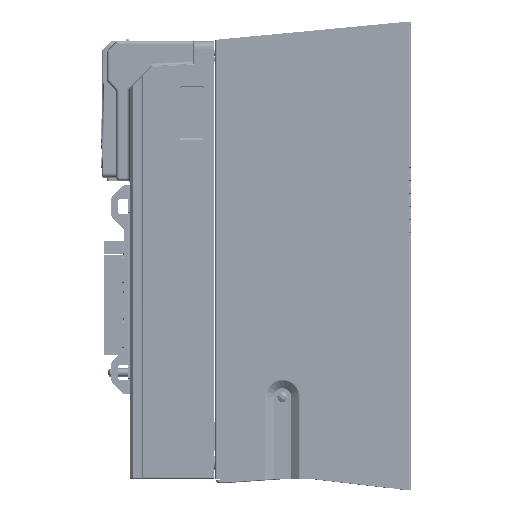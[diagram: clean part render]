
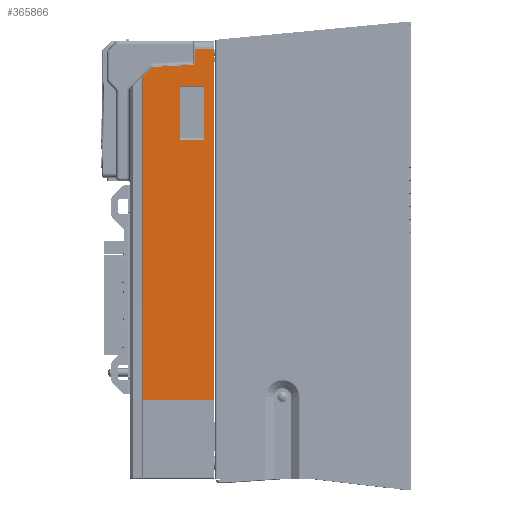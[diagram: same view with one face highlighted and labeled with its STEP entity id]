
A CAD part, top view. The second image highlights one B-rep face of the part: STEP entity #365866.
In plain terms, the highlighted planar face has unit normal (0, 0, 1).
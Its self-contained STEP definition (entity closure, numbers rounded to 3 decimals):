
#365703=DIRECTION('',(0.,-1.,0.));
#365704=VECTOR('',#365703,229.288);
#365705=CARTESIAN_POINT('',(-123.97,242.06,17.7));
#365706=LINE('',#365705,#365704);
#365707=DIRECTION('',(-1.,0.,0.));
#365708=VECTOR('',#365707,46.5);
#365709=CARTESIAN_POINT('',(-123.97,12.772,17.7));
#365710=LINE('',#365709,#365708);
#365711=DIRECTION('',(0.,1.,0.));
#365712=VECTOR('',#365711,211.081);
#365713=CARTESIAN_POINT('',(-170.47,12.772,17.7));
#365714=LINE('',#365713,#365712);
#365715=DIRECTION('',(0.707,0.707,0.));
#365716=VECTOR('',#365715,8.326);
#365717=CARTESIAN_POINT('',(-170.47,223.853,17.7));
#365718=LINE('',#365717,#365716);
#365719=CARTESIAN_POINT('',(-164.583,229.74,17.7));
#365720=CARTESIAN_POINT('',(-164.492,229.829,17.7));
#365721=CARTESIAN_POINT('',(-164.298,229.979,17.7));
#365722=CARTESIAN_POINT('',(-163.968,230.126,17.7));
#365723=CARTESIAN_POINT('',(-163.727,230.169,17.7));
#365724=CARTESIAN_POINT('',(-163.6,230.178,17.7));
#365726=DIRECTION('',(0.999,0.052,0.));
#365727=VECTOR('',#365726,25.951);
#365728=CARTESIAN_POINT('',(-163.6,230.178,17.7));
#365729=LINE('',#365728,#365727);
#365730=CARTESIAN_POINT('',(-137.685,231.536,17.7));
#365731=CARTESIAN_POINT('',(-137.571,231.544,17.7));
#365732=CARTESIAN_POINT('',(-137.354,231.606,17.7));
#365733=CARTESIAN_POINT('',(-137.021,231.855,17.7));
#365734=CARTESIAN_POINT('',(-136.789,232.198,17.7));
#365735=CARTESIAN_POINT('',(-136.739,232.42,17.7));
#365736=CARTESIAN_POINT('',(-136.737,232.534,17.7));
#365738=DIRECTION('',(0.,1.,0.));
#365739=VECTOR('',#365738,9.526);
#365740=CARTESIAN_POINT('',(-136.737,232.534,17.7));
#365741=LINE('',#365740,#365739);
#365742=DIRECTION('',(1.,0.,0.));
#365743=VECTOR('',#365742,12.767);
#365744=CARTESIAN_POINT('',(-136.737,242.06,17.7));
#365745=LINE('',#365744,#365743);
#365746=CARTESIAN_POINT('',(-130.97,182.733,17.7));
#365747=CARTESIAN_POINT('',(-130.913,182.729,17.7));
#365748=CARTESIAN_POINT('',(-130.799,182.754,17.7));
#365749=CARTESIAN_POINT('',(-130.593,182.915,17.7));
#365750=CARTESIAN_POINT('',(-130.472,183.13,17.7));
#365751=CARTESIAN_POINT('',(-130.397,183.343,17.7));
#365752=CARTESIAN_POINT('',(-130.374,183.554,17.7));
#365753=CARTESIAN_POINT('',(-130.37,183.67,17.7));
#365755=DIRECTION('',(0.,1.,0.));
#365756=VECTOR('',#365755,32.231);
#365757=CARTESIAN_POINT('',(-130.37,183.67,17.7));
#365758=LINE('',#365757,#365756);
#365759=CARTESIAN_POINT('',(-130.37,215.902,17.7));
#365760=CARTESIAN_POINT('',(-130.375,216.152,17.7));
#365761=CARTESIAN_POINT('',(-130.465,216.611,17.7));
#365762=CARTESIAN_POINT('',(-130.864,217.207,17.7));
#365763=CARTESIAN_POINT('',(-131.461,217.606,17.7));
#365764=CARTESIAN_POINT('',(-131.919,217.697,17.7));
#365765=CARTESIAN_POINT('',(-132.17,217.702,17.7));
#365767=DIRECTION('',(-1.,0.,0.));
#365768=VECTOR('',#365767,12.5);
#365769=CARTESIAN_POINT('',(-132.17,217.702,17.7));
#365770=LINE('',#365769,#365768);
#365771=CARTESIAN_POINT('',(-144.67,217.702,17.7));
#365772=CARTESIAN_POINT('',(-144.921,217.697,17.7));
#365773=CARTESIAN_POINT('',(-145.38,217.606,17.7));
#365774=CARTESIAN_POINT('',(-145.976,217.207,17.7));
#365775=CARTESIAN_POINT('',(-146.375,216.611,17.7));
#365776=CARTESIAN_POINT('',(-146.465,216.152,17.7));
#365777=CARTESIAN_POINT('',(-146.47,215.902,17.7));
#365779=DIRECTION('',(0.,-1.,0.));
#365780=VECTOR('',#365779,32.231);
#365781=CARTESIAN_POINT('',(-146.47,215.902,17.7));
#365782=LINE('',#365781,#365780);
#365783=CARTESIAN_POINT('',(-146.47,183.67,17.7));
#365784=CARTESIAN_POINT('',(-146.466,183.553,17.7));
#365785=CARTESIAN_POINT('',(-146.443,183.341,17.7));
#365786=CARTESIAN_POINT('',(-146.367,183.126,17.7));
#365787=CARTESIAN_POINT('',(-146.244,182.912,17.7));
#365788=CARTESIAN_POINT('',(-146.038,182.753,17.7));
#365789=CARTESIAN_POINT('',(-145.926,182.728,17.7));
#365790=CARTESIAN_POINT('',(-145.87,182.733,17.7));
#365792=DIRECTION('',(1.,0.,0.));
#365793=VECTOR('',#365792,14.9);
#365794=CARTESIAN_POINT('',(-145.87,182.733,17.7));
#365795=LINE('',#365794,#365793);
#365796=CARTESIAN_POINT('',(-123.97,12.772,17.7));
#365797=CARTESIAN_POINT('',(-123.97,242.06,17.7));
#365798=VERTEX_POINT('',#365796);
#365799=VERTEX_POINT('',#365797);
#365800=CARTESIAN_POINT('',(-136.737,242.06,17.7));
#365801=VERTEX_POINT('',#365800);
#365802=CARTESIAN_POINT('',(-136.737,232.534,17.7));
#365803=VERTEX_POINT('',#365802);
#365804=VERTEX_POINT('',#365730);
#365805=CARTESIAN_POINT('',(-163.6,230.178,17.7));
#365806=VERTEX_POINT('',#365805);
#365807=VERTEX_POINT('',#365719);
#365808=CARTESIAN_POINT('',(-170.47,223.853,17.7));
#365809=VERTEX_POINT('',#365808);
#365810=CARTESIAN_POINT('',(-170.47,12.772,17.7));
#365811=VERTEX_POINT('',#365810);
#365812=VERTEX_POINT('',#365753);
#365813=VERTEX_POINT('',#365746);
#365814=CARTESIAN_POINT('',(-145.87,182.733,17.7));
#365815=VERTEX_POINT('',#365814);
#365816=VERTEX_POINT('',#365783);
#365817=CARTESIAN_POINT('',(-146.47,215.902,17.7));
#365818=VERTEX_POINT('',#365817);
#365819=VERTEX_POINT('',#365771);
#365820=CARTESIAN_POINT('',(-132.17,217.702,17.7));
#365821=VERTEX_POINT('',#365820);
#365822=VERTEX_POINT('',#365759);
#365823=CARTESIAN_POINT('',(-175.456,-10.492,17.7));
#365824=DIRECTION('',(0.,0.,1.));
#365825=DIRECTION('',(1.,0.,0.));
#365826=AXIS2_PLACEMENT_3D('',#365823,#365824,#365825);
#365827=PLANE('',#365826);
#365829=ORIENTED_EDGE('',*,*,#365828,.T.);
#365831=ORIENTED_EDGE('',*,*,#365830,.T.);
#365833=ORIENTED_EDGE('',*,*,#365832,.T.);
#365835=ORIENTED_EDGE('',*,*,#365834,.T.);
#365837=ORIENTED_EDGE('',*,*,#365836,.T.);
#365839=ORIENTED_EDGE('',*,*,#365838,.T.);
#365841=ORIENTED_EDGE('',*,*,#365840,.T.);
#365843=ORIENTED_EDGE('',*,*,#365842,.T.);
#365845=ORIENTED_EDGE('',*,*,#365844,.T.);
#365846=EDGE_LOOP('',(#365829,#365831,#365833,#365835,#365837,#365839,#365841,
#365843,#365845));
#365847=FACE_OUTER_BOUND('',#365846,.F.);
#365849=ORIENTED_EDGE('',*,*,#365848,.T.);
#365851=ORIENTED_EDGE('',*,*,#365850,.T.);
#365853=ORIENTED_EDGE('',*,*,#365852,.T.);
#365855=ORIENTED_EDGE('',*,*,#365854,.T.);
#365857=ORIENTED_EDGE('',*,*,#365856,.T.);
#365859=ORIENTED_EDGE('',*,*,#365858,.T.);
#365861=ORIENTED_EDGE('',*,*,#365860,.T.);
#365863=ORIENTED_EDGE('',*,*,#365862,.T.);
#365864=EDGE_LOOP('',(#365849,#365851,#365853,#365855,#365857,#365859,#365861,
#365863));
#365865=FACE_BOUND('',#365864,.F.);
#365866=ADVANCED_FACE('',(#365847,#365865),#365827,.T.);
#365725=B_SPLINE_CURVE_WITH_KNOTS('',3,(#365719,#365720,#365721,#365722,#365723,
#365724),.UNSPECIFIED.,.F.,.F.,(4,1,1,4),(0.,0.333,
0.667,1.),.UNSPECIFIED.);
#365737=B_SPLINE_CURVE_WITH_KNOTS('',3,(#365730,#365731,#365732,#365733,#365734,
#365735,#365736),.UNSPECIFIED.,.F.,.F.,(4,1,1,1,4),(0.,0.25,0.5,0.75,
1.),.UNSPECIFIED.);
#365754=B_SPLINE_CURVE_WITH_KNOTS('',3,(#365746,#365747,#365748,#365749,#365750,
#365751,#365752,#365753),.UNSPECIFIED.,.F.,.F.,(4,1,1,1,1,4),(0.,0.2,0.4,
0.6,0.8,1.),.UNSPECIFIED.);
#365766=B_SPLINE_CURVE_WITH_KNOTS('',3,(#365759,#365760,#365761,#365762,#365763,
#365764,#365765),.UNSPECIFIED.,.F.,.F.,(4,1,1,1,4),(0.,0.25,0.5,0.75,
1.),.UNSPECIFIED.);
#365778=B_SPLINE_CURVE_WITH_KNOTS('',3,(#365771,#365772,#365773,#365774,#365775,
#365776,#365777),.UNSPECIFIED.,.F.,.F.,(4,1,1,1,4),(0.,0.25,0.5,0.75,
1.),.UNSPECIFIED.);
#365791=B_SPLINE_CURVE_WITH_KNOTS('',3,(#365783,#365784,#365785,#365786,#365787,
#365788,#365789,#365790),.UNSPECIFIED.,.F.,.F.,(4,1,1,1,1,4),(0.,0.2,0.4,
0.6,0.8,1.),.UNSPECIFIED.);
#365828=EDGE_CURVE('',#365799,#365798,#365706,.T.);
#365830=EDGE_CURVE('',#365798,#365811,#365710,.T.);
#365832=EDGE_CURVE('',#365811,#365809,#365714,.T.);
#365834=EDGE_CURVE('',#365809,#365807,#365718,.T.);
#365836=EDGE_CURVE('',#365807,#365806,#365725,.T.);
#365838=EDGE_CURVE('',#365806,#365804,#365729,.T.);
#365840=EDGE_CURVE('',#365804,#365803,#365737,.T.);
#365842=EDGE_CURVE('',#365803,#365801,#365741,.T.);
#365844=EDGE_CURVE('',#365801,#365799,#365745,.T.);
#365848=EDGE_CURVE('',#365813,#365812,#365754,.T.);
#365850=EDGE_CURVE('',#365812,#365822,#365758,.T.);
#365852=EDGE_CURVE('',#365822,#365821,#365766,.T.);
#365854=EDGE_CURVE('',#365821,#365819,#365770,.T.);
#365856=EDGE_CURVE('',#365819,#365818,#365778,.T.);
#365858=EDGE_CURVE('',#365818,#365816,#365782,.T.);
#365860=EDGE_CURVE('',#365816,#365815,#365791,.T.);
#365862=EDGE_CURVE('',#365815,#365813,#365795,.T.);
